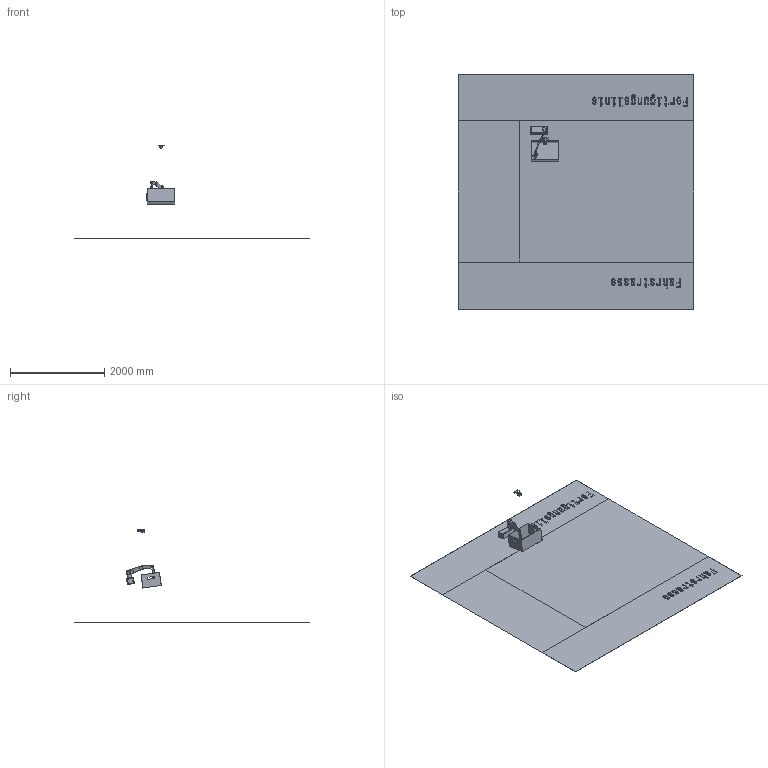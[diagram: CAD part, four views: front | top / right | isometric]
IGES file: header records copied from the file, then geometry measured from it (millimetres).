
Start section: START RECORD GO HERE.
Global section: file name: DATENSATZ_1_BAURAUM_ROBOTER_KAMERA_TRANSPORTKISTE_NEU.igs; native system: DASSAULT SYSTEMES CATIA Version 5-6 Release 2022 - www.3ds.com; preprocessor: V5-6R2022_5.32.3.12.02-17-2023.15.45; author: DS9048K; organization: VOLKSWAGEN AG; date: 20231120.132301; units: millimetre
Bounding box: 5000 x 4974.29 x 1968 mm (x, y, z)
Surface area: 52090845.5 mm2 (no closed solid volume)
Topology: 0 solids, 0 shells, 2214 faces, 11783 edges, 11799 vertices
Faces by surface type: bspline 2214
